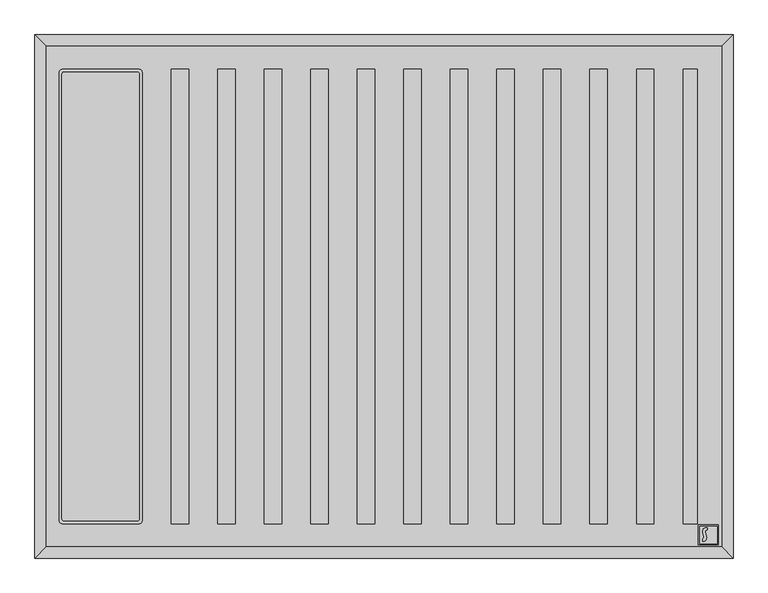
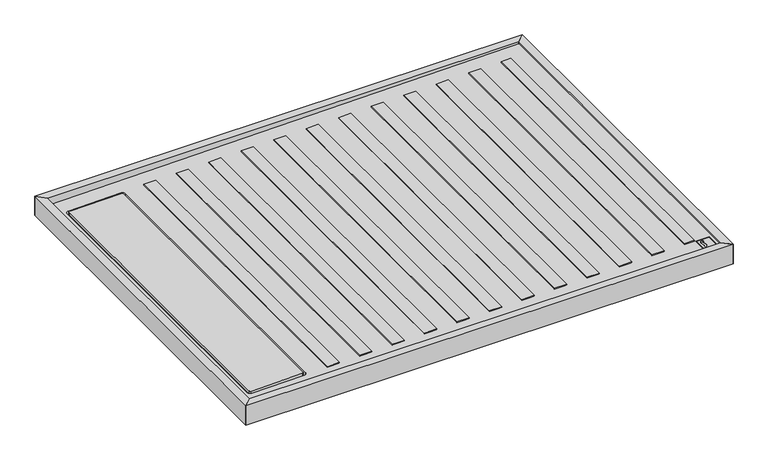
"""IFC4 building model written with IfcOpenShell, lengths in millimetres: flow terminal geometry, Sanitary_Shower-trays_Cosentino_Kador : Kador_130*125."""

from ifc_helpers import new_model, si_unit, point, frame, frame_2d, origin, origin_with_axes, place, context, project, spatial, polyline, circle_curve, ellipse_curve, trimmed, segment, composite_curve, outline, extrude, source, transform, mapped, element, save
from ifc_brep_helpers import plane_surface, cylinder_surface, revolved_surface, advanced_brep


def flow_terminal_606d7820(model_context):
    return source(origin(), model_context, "Body", "SolidModel", [
        advanced_brep(
        [(-420.5, 382.5, 33.9087277), (-424.0, 386.0, 33.8633095), (-550.0, 386.0, 32.2282535), (-553.5, 382.5, 32.1828353), (-553.5, -382.5, 32.1828353), (-550.0, -386.0, 32.2282535), (-424.0, -386.0, 33.8633095), (-420.5, -382.5, 33.9087277), (-424.0, 386.0, 24.9415704), (-420.5, 382.5, 24.9415704), (-420.5, -382.5, 24.9415704), (-424.0, -386.0, 24.9415704), (-550.0, -386.0, 24.9415704), (-553.5, -382.5, 24.9415704), (-553.5, 382.5, 24.9415704), (-550.0, 386.0, 24.9415704)],
        [
            (0, 1, ellipse_curve(frame((-424.0, 382.5, 33.8633095), z_axis=(-0.01297554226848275, 0.0, 0.9999158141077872), x_axis=(0.9999158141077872, 0.0, 0.012975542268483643)), 3.5002947, 3.5)),
            (1, 2),
            (2, 3, ellipse_curve(frame((-550.0, 382.5, 32.2282535), z_axis=(-0.01297554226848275, 0.0, 0.9999158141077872), x_axis=(0.9999158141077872, 0.0, 0.012975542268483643)), 3.5002947, 3.5)),
            (3, 4),
            (4, 5, ellipse_curve(frame((-550.0, -382.5, 32.2282535), z_axis=(-0.01297554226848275, 0.0, 0.9999158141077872), x_axis=(0.9999158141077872, 0.0, 0.012975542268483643)), 3.5002947, 3.5)),
            (5, 6),
            (6, 7, ellipse_curve(frame((-424.0, -382.5, 33.8633095), z_axis=(-0.01297554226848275, 0.0, 0.9999158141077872), x_axis=(0.9999158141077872, 0.0, 0.012975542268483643)), 3.5002947, 3.5)),
            (7, 0),
            (8, 9, circle_curve(frame((-424.0, 382.5, 24.9415704), z_axis=(0.0, 0.0, -1.0), x_axis=(1.0, 0.0, 0.0)), 3.5)),
            (9, 10),
            (10, 11, circle_curve(frame((-424.0, -382.5, 24.9415704), z_axis=(0.0, 0.0, -1.0), x_axis=(1.0, 0.0, 0.0)), 3.5)),
            (11, 12),
            (12, 13, circle_curve(frame((-550.0, -382.5, 24.9415704), z_axis=(0.0, 0.0, -1.0), x_axis=(1.0, 0.0, 0.0)), 3.5)),
            (13, 14),
            (14, 15, circle_curve(frame((-550.0, 382.5, 24.9415704), z_axis=(0.0, 0.0, -1.0), x_axis=(1.0, 0.0, 0.0)), 3.5)),
            (15, 8),
            (9, 0),
            (7, 10),
            (11, 6),
            (5, 12),
            (13, 4),
            (3, 14),
            (15, 2),
            (1, 8),
        ],
        [
            plane_surface(frame((581.0, -431.0, 46.9048274), z_axis=(-0.01297554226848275, 0.0, 0.9999158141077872), x_axis=(0.0, 1.0, 0.0))),
            plane_surface(frame((-420.5, 382.5, 24.9415704), z_axis=(0.0, 0.0, -1.0), x_axis=(0.0, 1.0, 0.0))),
            plane_surface(frame((-420.5, 382.5, 45.0), z_axis=(1.0, 0.0, 0.0), x_axis=(0.0, 0.0, -1.0))),
            plane_surface(frame((-424.0, -386.0, 45.0), z_axis=(0.0, -1.0, 0.0), x_axis=(0.0, 0.0, -1.0))),
            plane_surface(frame((-553.5, -382.5, 45.0), z_axis=(-1.0, 0.0, 0.0), x_axis=(0.0, 0.0, -1.0))),
            plane_surface(frame((-550.0, 386.0, 45.0), z_axis=(0.0, 1.0, 0.0), x_axis=(0.0, 0.0, -1.0))),
            cylinder_surface(frame((-424.0, 382.5, 24.9415704), z_axis=(0.0, 0.0, 1.0), x_axis=(1.0, 0.0, 0.0)), 3.5),
            cylinder_surface(frame((-424.0, -382.5, 24.9415704), z_axis=(0.0, 0.0, 1.0), x_axis=(1.0, 0.0, 0.0)), 3.5),
            cylinder_surface(frame((-550.0, -382.5, 24.9415704), z_axis=(0.0, 0.0, 1.0), x_axis=(1.0, 0.0, 0.0)), 3.5),
            cylinder_surface(frame((-550.0, 382.5, 24.9415704), z_axis=(0.0, 0.0, 1.0), x_axis=(1.0, 0.0, 0.0)), 3.5),
        ],
        [
            (0, [[1, 2, 3, 4, 5, 6, 7, 8]]),
            (1, [[9, 10, 11, 12, 13, 14, 15, 16]]),
            (2, [[17, -8, 18, -10]]),
            (3, [[19, -6, 20, -12]]),
            (4, [[21, -4, 22, -14]]),
            (5, [[23, -2, 24, -16]]),
            (6, [[-24, -1, -17, -9]]),
            (7, [[-18, -7, -19, -11]]),
            (8, [[-20, -5, -21, -13]]),
            (9, [[-22, -3, -23, -15]]),
        ],
    ),
        extrude(outline(polyline([(10.0, -366.0), (10.0, -336.0), (35.0052533, -336.0), (34.6159543, -366.0), (10.0, -366.0)])), frame((0.0, -391.0, 0.0), z_axis=(0.0, 1.0, 0.0), x_axis=(0.0, 0.0, 1.0)), (0.0, 0.0, 1.0), 782.0),
        extrude(outline(polyline([(10.0, -286.0), (10.0, -256.0), (36.0433841, -256.0), (35.6540851, -286.0), (10.0, -286.0)])), frame((0.0, -391.0, 0.0), z_axis=(0.0, 1.0, 0.0), x_axis=(0.0, 0.0, 1.0)), (0.0, 0.0, 1.0), 782.0),
        extrude(outline(polyline([(10.0, -206.0), (10.0, -176.0), (37.0815149, -176.0), (36.6922159, -206.0), (10.0, -206.0)])), frame((0.0, -391.0, 0.0), z_axis=(0.0, 1.0, 0.0), x_axis=(0.0, 0.0, 1.0)), (0.0, 0.0, 1.0), 782.0),
        extrude(outline(polyline([(10.0, -126.0), (10.0, -96.0), (38.1196457, -96.0), (37.7303466, -126.0), (10.0, -126.0)])), frame((0.0, -391.0, 0.0), z_axis=(0.0, 1.0, 0.0), x_axis=(0.0, 0.0, 1.0)), (0.0, 0.0, 1.0), 782.0),
        extrude(outline(polyline([(10.0, -46.0), (10.0, -16.0), (39.1577764, -16.0), (38.7684774, -46.0), (10.0, -46.0)])), frame((0.0, -391.0, 0.0), z_axis=(0.0, 1.0, 0.0), x_axis=(0.0, 0.0, 1.0)), (0.0, 0.0, 1.0), 782.0),
        extrude(outline(polyline([(10.0, 34.0), (10.0, 64.0), (40.1959072, 64.0), (39.8066082, 34.0), (10.0, 34.0)])), frame((0.0, -391.0, 0.0), z_axis=(0.0, 1.0, 0.0), x_axis=(0.0, 0.0, 1.0)), (0.0, 0.0, 1.0), 782.0),
        extrude(outline(polyline([(10.0, 114.0), (10.0, 144.0), (41.234038, 144.0), (40.844739, 114.0), (10.0, 114.0)])), frame((0.0, -391.0, 0.0), z_axis=(0.0, 1.0, 0.0), x_axis=(0.0, 0.0, 1.0)), (0.0, 0.0, 1.0), 782.0),
        extrude(outline(polyline([(10.0, 194.0), (10.0, 224.0), (42.2721688, 224.0), (41.8828697, 194.0), (10.0, 194.0)])), frame((0.0, -391.0, 0.0), z_axis=(0.0, 1.0, 0.0), x_axis=(0.0, 0.0, 1.0)), (0.0, 0.0, 1.0), 782.0),
        extrude(outline(polyline([(10.0, 274.0), (10.0, 304.0), (43.3102996, 304.0), (42.9210005, 274.0), (10.0, 274.0)])), frame((0.0, -391.0, 0.0), z_axis=(0.0, 1.0, 0.0), x_axis=(0.0, 0.0, 1.0)), (0.0, 0.0, 1.0), 782.0),
        extrude(outline(polyline([(10.0, 354.0), (10.0, 384.0), (44.3484303, 384.0), (43.9591313, 354.0), (10.0, 354.0)])), frame((0.0, -391.0, 0.0), z_axis=(0.0, 1.0, 0.0), x_axis=(0.0, 0.0, 1.0)), (0.0, 0.0, 1.0), 782.0),
        extrude(outline(polyline([(10.0, 434.0), (10.0, 464.0), (45.3865611, 464.0), (44.9972621, 434.0), (10.0, 434.0)])), frame((0.0, -391.0, 0.0), z_axis=(0.0, 1.0, 0.0), x_axis=(0.0, 0.0, 1.0)), (0.0, 0.0, 1.0), 782.0),
        extrude(outline(polyline([(10.0, 514.0), (10.0, 538.4997055), (46.3533166, 538.4997055), (46.0353929, 514.0), (10.0, 514.0)])), frame((0.0, -391.0, 0.0), z_axis=(0.0, 1.0, 0.0), x_axis=(0.0, 0.0, 1.0)), (0.0, 0.0, 1.0), 782.0),
        extrude(outline(polyline([(572.4465505, -425.0929987), (542.4465505, -425.0929987), (542.4465505, -395.0929987), (572.4465505, -395.0929987), (572.4465505, -425.0929987)]), holes=[composite_curve([segment(polyline([(554.1850983, -412.8485396), (552.0870301, -405.0184428)]), True, "CONTINUOUS"), segment(trimmed(circle_curve(frame_2d((554.590467, -404.3476489)), 2.5917486), [point((552.0870301, -405.0184428))], [point((554.5568828, -401.7561179))], False, "CARTESIAN"), True, "CONTINUOUS"), segment(polyline([(554.5568828, -401.7561179), (555.5372593, -401.7403535), (555.5372593, -397.7185302), (553.484187, -397.7833239)]), True, "CONTINUOUS"), segment(trimmed(circle_curve(frame_2d((553.9268061, -404.2134148)), 6.4453068), [point((553.484187, -397.7833239))], [point((547.6685309, -405.7548335))], True, "CARTESIAN"), True, "CONTINUOUS"), segment(polyline([(547.6685309, -405.7548335), (549.6348515, -413.0932417)]), True, "CONTINUOUS"), segment(trimmed(circle_curve(frame_2d((546.3194795, -414.019131)), 3.4422322), [point((549.6348515, -413.0932417))], [point((548.2600314, -416.8622316))], False, "CARTESIAN"), True, "CONTINUOUS"), segment(polyline([(548.2600314, -416.8622316), (548.2600314, -421.5318539)]), True, "CONTINUOUS"), segment(trimmed(circle_curve(frame_2d((547.7589199, -414.8267757)), 6.7237776), [point((548.2600314, -421.5318539))], [point((554.1850983, -412.8485396))], True, "CARTESIAN"), True, "CONTINUOUS")], self_intersect=False)]), frame((0.0, 0.0, 30.3616701), z_axis=(0.0, 0.0, 1.0), x_axis=(1.0, 0.0, 0.0)), (0.0, 0.0, 1.0), 14.6383299),
        extrude(outline(polyline([(574.4465505, -427.0929987), (540.4465505, -427.0929987), (540.4465505, -393.0929987), (574.4465505, -393.0929987), (574.4465505, -427.0929987)]), holes=[polyline([(542.4465505, -425.0929987), (572.4465505, -425.0929987), (572.4465505, -395.0929987), (542.4465505, -395.0929987), (542.4465505, -425.0929987)])]), frame((0.0, 0.0, 30.3616701), z_axis=(0.0, 0.0, 1.0), x_axis=(1.0, 0.0, 0.0)), (0.0, 0.0, 1.0), 14.6383299),
        extrude(outline(composite_curve([segment(trimmed(circle_curve(frame_2d((547.7589199, -414.8267757)), 6.7237776), [point((554.1850983, -412.8485396))], [point((548.2600314, -421.5318539))], False, "CARTESIAN"), True, "CONTINUOUS"), segment(polyline([(548.2600314, -421.5318539), (548.2600314, -416.8622316)]), True, "CONTINUOUS"), segment(trimmed(circle_curve(frame_2d((546.3194795, -414.019131)), 3.4422322), [point((548.2600314, -416.8622316))], [point((549.6348515, -413.0932417))], True, "CARTESIAN"), True, "CONTINUOUS"), segment(polyline([(549.6348515, -413.0932417), (547.6685309, -405.7548335)]), True, "CONTINUOUS"), segment(trimmed(circle_curve(frame_2d((553.9268061, -404.2134148)), 6.4453068), [point((547.6685309, -405.7548335))], [point((553.484187, -397.7833239))], False, "CARTESIAN"), True, "CONTINUOUS"), segment(polyline([(553.484187, -397.7833239), (555.5372593, -397.7185302), (555.5372593, -401.7403535), (554.5568828, -401.7561179)]), True, "CONTINUOUS"), segment(trimmed(circle_curve(frame_2d((554.590467, -404.3476489)), 2.5917486), [point((554.5568828, -401.7561179))], [point((552.0870301, -405.0184428))], True, "CARTESIAN"), True, "CONTINUOUS"), segment(polyline([(552.0870301, -405.0184428), (554.1850983, -412.8485396)]), True, "CONTINUOUS")], self_intersect=False)), frame((0.0, 0.0, 30.3616701), z_axis=(0.0, 0.0, 1.0), x_axis=(1.0, 0.0, 0.0)), (0.0, 0.0, 1.0), 14.6383299),
        advanced_brep(
        [(-581.0, 431.0, 29.925985), (581.0, 431.0, 45.0048345), (581.0, 431.0, 23.0), (-570.0, 431.0, 10.0), (-581.0, 431.0, 10.0), (-581.0, -431.0, 29.925985), (-581.0, -431.0, 10.0), (-570.0, -431.0, 10.0), (581.0, -431.0, 23.0), (581.0, -431.0, 45.0048345), (-525.000878, 0.0, 10.5082438), (-435.000878, 0.0, 11.5247512), (-422.500878, 0.0, 22.0), (-537.500878, 0.0, 22.0), (-533.2118642, 0.0, 20.0), (-426.7898918, 0.0, 20.0), (-525.000878, 0.0, 20.0), (-435.000878, 0.0, 20.0), (-558.5, 384.5, 30.2179593), (-552.0, 391.0, 30.3023074), (-422.0, 391.0, 31.9892699), (-415.5, 384.5, 32.073618), (-415.5, -384.5, 32.073618), (-422.0, -391.0, 31.9892699), (-552.0, -391.0, 30.3023074), (-558.5, -384.5, 30.2179593), (-558.5, -384.5, 22.0), (-552.0, -391.0, 22.0), (-422.0, -391.0, 22.0), (-415.5, -384.5, 22.0), (-415.5, 384.5, 22.0), (-422.0, 391.0, 22.0), (-552.0, 391.0, 22.0), (-558.5, 384.5, 22.0)],
        [
            (0, 1),
            (1, 2),
            (2, 3),
            (3, 4),
            (4, 0),
            (5, 6),
            (6, 7),
            (7, 8),
            (8, 9),
            (9, 5),
            (4, 6),
            (5, 0),
            (3, 7),
            (2, 8),
            (10, 11, ellipse_curve(frame((-480.000878, 0.0, 11.0164975), z_axis=(-0.011293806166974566, 0.0, 0.9999362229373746), x_axis=(0.9999362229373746, 0.0, 0.01129380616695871)), 45.0028702, 45.0)),
            (11, 10, ellipse_curve(frame((-480.000878, 0.0, 11.0164975), z_axis=(-0.011293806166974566, 0.0, 0.9999362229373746), x_axis=(0.9999362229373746, 0.0, 0.01129380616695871)), 45.0028702, 45.0)),
            (12, 13, circle_curve(frame((-480.000878, 0.0, 22.0), z_axis=(0.0, 0.0, 1.0), x_axis=(-1.0, 0.0, 0.0)), 57.5)),
            (13, 14),
            (14, 15, circle_curve(frame((-480.000878, 0.0, 20.0), z_axis=(0.0, 0.0, -1.0), x_axis=(-1.0, 0.0, 0.0)), 53.2109862)),
            (15, 12),
            (15, 14, circle_curve(frame((-480.000878, 0.0, 20.0), z_axis=(0.0, 0.0, -1.0), x_axis=(-1.0, 0.0, 0.0)), 53.2109862)),
            (13, 12, circle_curve(frame((-480.000878, 0.0, 22.0), z_axis=(0.0, 0.0, 1.0), x_axis=(-1.0, 0.0, 0.0)), 57.5)),
            (14, 16),
            (16, 17, circle_curve(frame((-480.000878, 0.0, 20.0), z_axis=(0.0, 0.0, -1.0), x_axis=(-1.0, 0.0, 0.0)), 45.0)),
            (17, 15),
            (17, 16, circle_curve(frame((-480.000878, 0.0, 20.0), z_axis=(0.0, 0.0, -1.0), x_axis=(-1.0, 0.0, 0.0)), 45.0)),
            (16, 10),
            (11, 17),
            (1, 9),
            (18, 19, ellipse_curve(frame((-552.0, 384.5, 30.3023074), z_axis=(0.01297554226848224, 0.0, -0.9999158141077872), x_axis=(0.9999158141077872, 0.0, 0.012975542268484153)), 6.5005473, 6.5)),
            (19, 20),
            (20, 21, ellipse_curve(frame((-422.0, 384.5, 31.9892699), z_axis=(0.01297554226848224, 0.0, -0.9999158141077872), x_axis=(0.9999158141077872, 0.0, 0.012975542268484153)), 6.5005473, 6.5)),
            (21, 22),
            (22, 23, ellipse_curve(frame((-422.0, -384.5, 31.9892699), z_axis=(0.01297554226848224, 0.0, -0.9999158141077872), x_axis=(0.9999158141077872, 0.0, 0.012975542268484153)), 6.5005473, 6.5)),
            (23, 24),
            (24, 25, ellipse_curve(frame((-552.0, -384.5, 30.3023074), z_axis=(0.01297554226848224, 0.0, -0.9999158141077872), x_axis=(0.9999158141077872, 0.0, 0.012975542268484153)), 6.5005473, 6.5)),
            (25, 18),
            (26, 27, circle_curve(frame((-552.0, -384.5, 22.0), z_axis=(0.0, 0.0, 1.0), x_axis=(1.0, 0.0, 0.0)), 6.5)),
            (27, 28),
            (28, 29, circle_curve(frame((-422.0, -384.5, 22.0), z_axis=(0.0, 0.0, 1.0), x_axis=(1.0, 0.0, 0.0)), 6.5)),
            (29, 30),
            (30, 31, circle_curve(frame((-422.0, 384.5, 22.0), z_axis=(0.0, 0.0, 1.0), x_axis=(1.0, 0.0, 0.0)), 6.5)),
            (31, 32),
            (32, 33, circle_curve(frame((-552.0, 384.5, 22.0), z_axis=(0.0, 0.0, 1.0), x_axis=(1.0, 0.0, 0.0)), 6.5)),
            (33, 26),
            (33, 18),
            (25, 26),
            (32, 19),
            (31, 20),
            (30, 21),
            (29, 22),
            (28, 23),
            (27, 24),
        ],
        [
            plane_surface(frame((-581.0, 431.0, 10.0), z_axis=(0.0, 1.0, 0.0), x_axis=(0.0, 0.0, -1.0))),
            plane_surface(frame((-581.0, -431.0, 10.0), z_axis=(0.0, -1.0, 0.0), x_axis=(0.0, 0.0, 1.0))),
            plane_surface(frame((-581.0, 431.0, 29.925985), z_axis=(-1.0, 0.0, 0.0), x_axis=(0.0, -1.0, 0.0))),
            plane_surface(frame((-581.0, 431.0, 10.0), z_axis=(0.0, 0.0, -1.0), x_axis=(0.0, -1.0, 0.0))),
            plane_surface(frame((-570.0, 431.0, 10.0), z_axis=(0.011293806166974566, 0.0, -0.9999362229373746), x_axis=(0.0, -1.0, 0.0))),
            revolved_surface(polyline([(-537.500878, 0.0, 22.0), (-533.2118642, 0.0, 20.0)]), (-480.000878, 0.0, -304.8), (0.0, 0.0, 1.0)),
            plane_surface(frame((-480.000878, 0.0, 20.0), z_axis=(0.0, 0.0, 1.0), x_axis=(-1.0, 0.0, 0.0))),
            revolved_surface(polyline([(-525.0008780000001, 0.0, 20.0), (-525.0008780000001, 0.0, 10.508243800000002)]), (-480.000878, 0.0, -304.8), (0.0, 0.0, 1.0)),
            plane_surface(frame((581.0, 431.0, 23.0), z_axis=(1.0, 0.0, 0.0), x_axis=(0.0, -1.0, 0.0))),
            plane_surface(frame((581.0, 431.0, 45.0048345), z_axis=(-0.01297554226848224, 0.0, 0.9999158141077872), x_axis=(0.0, -1.0, 0.0))),
            plane_surface(frame((-558.5, -384.5, 22.0), z_axis=(0.0, 0.0, 1.0), x_axis=(0.0, -1.0, 0.0))),
            plane_surface(frame((-558.5, -384.5, 50.0), z_axis=(1.0, 0.0, 0.0), x_axis=(0.0, 0.0, -1.0))),
            revolved_surface(polyline([(-545.5, 384.5, 30.386655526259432), (-545.5, 384.5, 22.0)]), (-552.0, 384.5, 22.0), (0.0, 0.0, 1.0)),
            plane_surface(frame((-552.0, 391.0, 50.0), z_axis=(0.0, -1.0, 0.0), x_axis=(0.0, 0.0, -1.0))),
            revolved_surface(polyline([(-415.5, 384.5, 32.07361802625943), (-415.5, 384.5, 22.0)]), (-422.0, 384.5, 22.0), (0.0, 0.0, 1.0)),
            plane_surface(frame((-415.5, 384.5, 50.0), z_axis=(-1.0, 0.0, 0.0), x_axis=(0.0, 0.0, -1.0))),
            revolved_surface(polyline([(-415.5, -384.5, 32.07361802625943), (-415.5, -384.5, 22.0)]), (-422.0, -384.5, 22.0), (0.0, 0.0, 1.0)),
            plane_surface(frame((-422.0, -391.0, 50.0), z_axis=(0.0, 1.0, 0.0), x_axis=(0.0, 0.0, -1.0))),
            revolved_surface(polyline([(-545.5, -384.5, 30.386655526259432), (-545.5, -384.5, 22.0)]), (-552.0, -384.5, 22.0), (0.0, 0.0, 1.0)),
        ],
        [
            (0, [[1, 2, 3, 4, 5]]),
            (1, [[6, 7, 8, 9, 10]]),
            (2, [[11, -6, 12, -5]]),
            (3, [[13, -7, -11, -4]]),
            (4, [[14, -8, -13, -3], [15, 16]]),
            (5, [[17, 18, 19, 20]]),
            (5, [[21, -18, 22, -20]]),
            (6, [[23, 24, 25, -19]]),
            (6, [[-25, 26, -23, -21]]),
            (7, [[27, -16, 28, -24]]),
            (7, [[-28, -15, -27, -26]]),
            (8, [[29, -9, -14, -2]]),
            (9, [[-12, -10, -29, -1], [30, 31, 32, 33, 34, 35, 36, 37]]),
            (10, [[38, 39, 40, 41, 42, 43, 44, 45], [-22, -17]]),
            (11, [[46, -37, 47, -45]]),
            (12, [[48, -30, -46, -44]]),
            (13, [[49, -31, -48, -43]]),
            (14, [[50, -32, -49, -42]]),
            (15, [[51, -33, -50, -41]]),
            (16, [[52, -34, -51, -40]]),
            (17, [[53, -35, -52, -39]]),
            (18, [[-47, -36, -53, -38]]),
        ],
    ),
        extrude(outline(polyline([(-600.0, 450.0), (-581.0, 431.0), (-581.0, -431.0), (-600.0, -450.0), (-600.0, 450.0)])), origin_with_axes(), (0.0, 0.0, 1.0), 50.0),
        extrude(outline(polyline([(600.0, 450.0), (600.0, -450.0), (581.0, -431.0), (581.0, 431.0), (600.0, 450.0)])), origin_with_axes(), (0.0, 0.0, 1.0), 50.0),
        extrude(outline(polyline([(600.0, -450.0), (-600.0, -450.0), (-581.0, -431.0), (581.0, -431.0), (600.0, -450.0)])), origin_with_axes(), (0.0, 0.0, 1.0), 50.0),
        extrude(outline(polyline([(600.0, 450.0), (581.0, 431.0), (-581.0, 431.0), (-600.0, 450.0), (600.0, 450.0)])), origin_with_axes(), (0.0, 0.0, 1.0), 50.0),
    ])


if __name__ == "__main__":
    model = new_model("IFC4")
    model_context = context("Model", 3, world=origin())
    ifc_project = project(units=[si_unit("LENGTHUNIT", "METRE", prefix="MILLI")], contexts=[model_context])
    site = spatial("IfcSite", under=ifc_project)
    building = spatial("IfcBuilding", under=site)
    placement = place(None, origin())
    flow_terminal_shape = flow_terminal_606d7820(model_context)
    element("IfcFlowTerminal", 1, ObjectType="Sanitary_Shower-trays_Cosentino_Kador : Kador_130*125", at=placement, inside=building, context=model_context, shape_type="MappedRepresentation", body=[
        mapped(flow_terminal_shape, transform((0.0, 0.0, 0.0), x_axis=(1.0, 0.0, 0.0), y_axis=(0.0, 1.0, 0.0), z_axis=(0.0, 0.0, 1.0))),
    ])
    save(model, "model.ifc")
